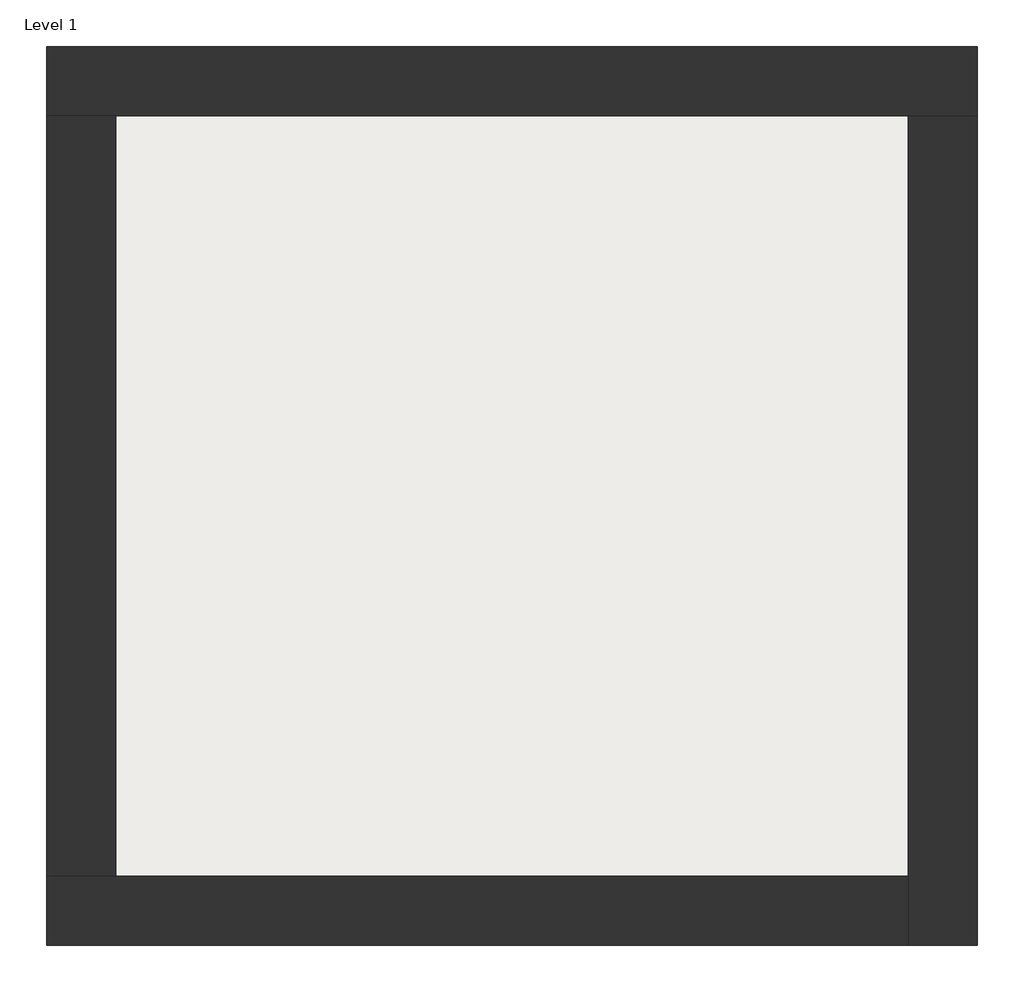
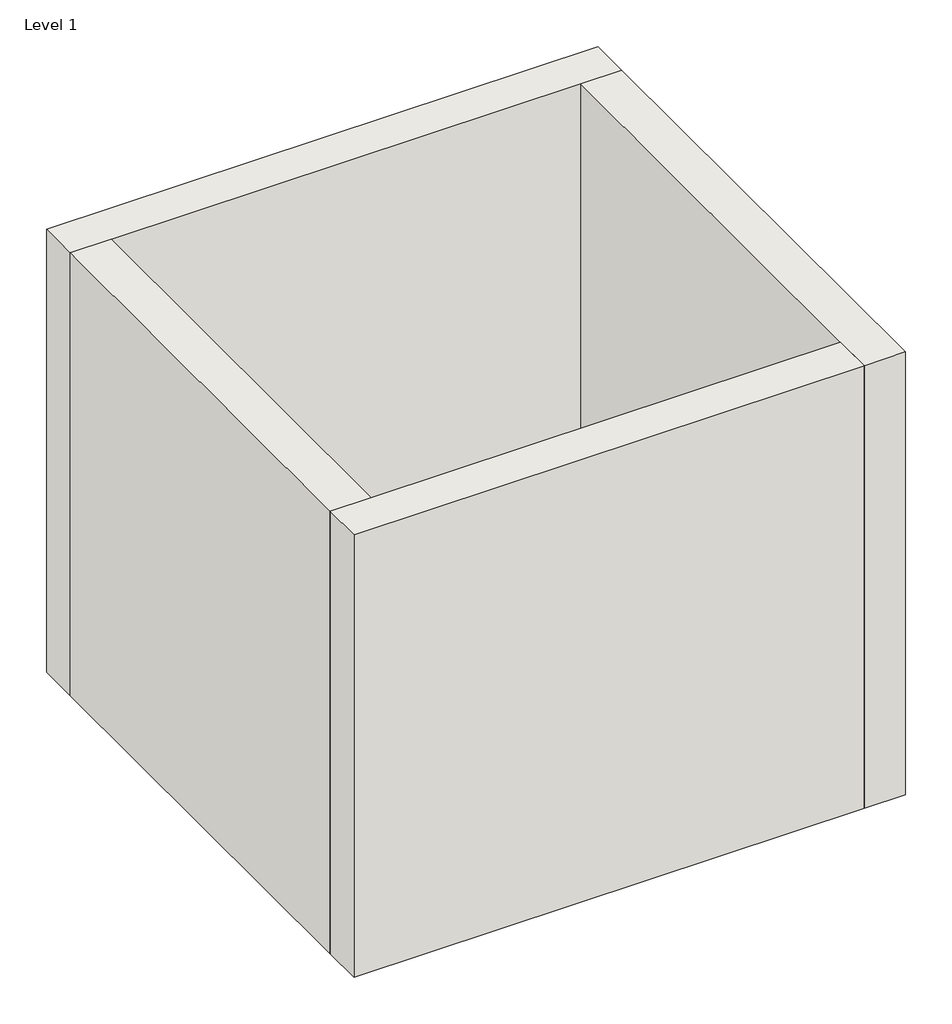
# One storey: 4 walls, 1 slab.
"""IFC4 building model written with IfcOpenShell, lengths in millimetres."""

from ifc_helpers import new_model, si_unit, frame, origin, origin_with_axes, place, context, project, spatial, polyline, outline, extrude, faceted_brep, element, save

model = new_model("IFC4")

# Units and contexts
model_context = context("Model", 3, world=origin())
ifc_project = project(units=[si_unit("LENGTHUNIT", "METRE", prefix="MILLI")], contexts=[model_context])

# Site, building, storey
site = spatial("IfcSite", under=ifc_project)
building = spatial("IfcBuilding", under=site)
storey = spatial("IfcBuildingStorey", under=building, Name="Level 1", Elevation=0.0)

# Slab
placement = place(None, origin())
element("IfcSlab", 1, ObjectType="CAP. 6 - SsB 01 - PARDOSEALA", at=placement, inside=storey, context=model_context, shape_type="SweptSolid", body=[
    extrude(outline(polyline([(-10869.3573003, 6934.2750283), (-10869.3573003, 3058.2750283), (-14907.8573003, 3058.2750283), (-14907.8573003, 6934.2750283), (-10869.3573003, 6934.2750283)])), frame((0.0, 0.0, -4.7), z_axis=(0.0, 0.0, 1.0), x_axis=(1.0, 0.0, 0.0)), (0.0, 0.0, 1.0), 404.7),
])

# Walls
element("IfcWall", 2, ObjectType="Exterior - Brick on Mtl. Stud", at=placement, inside=storey, context=model_context, shape_type="Brep", body=[
    faceted_brep([(-15244.8573003, 6921.2750283, 0.0), (-14894.8573003, 6921.2750283, 0.0), (-10882.3573003, 6921.2750283, 0.0), (-10532.3573003, 6921.2750283, 0.0), (-10532.3573003, 6921.2750283, 4000.0), (-10882.3573003, 6921.2750283, 4000.0), (-14894.8573003, 6921.2750283, 4000.0), (-15244.8573003, 6921.2750283, 4000.0), (-15244.8573003, 7271.2750283, 0.0), (-15244.8573003, 7271.2750283, 4000.0), (-10532.3573003, 7271.2750283, 4000.0), (-10532.3573003, 7271.2750283, 0.0)], [[[0, 1, 2, 3, 4, 5, 6, 7]], [[8, 9, 10, 11]], [[3, 2, 1, 0, 8, 11]], [[7, 6, 5, 4, 10, 9]], [[0, 7, 9, 8]], [[4, 3, 11, 10]]]),
])
element("IfcWall", 3, ObjectType="Exterior - Brick on Mtl. Stud", at=placement, inside=storey, context=model_context, shape_type="Brep", body=[
    faceted_brep([(-10882.3573003, 6921.2750283, 0.0), (-10882.3573003, 3071.2750283, 0.0), (-10882.3573003, 2721.2750283, 0.0), (-10882.3573003, 2721.2750283, 4000.0), (-10882.3573003, 3071.2750283, 4000.0), (-10882.3573003, 6921.2750283, 4000.0), (-10532.3573003, 6921.2750283, 0.0), (-10532.3573003, 6921.2750283, 4000.0), (-10532.3573003, 2721.2750283, 4000.0), (-10532.3573003, 2721.2750283, 0.0)], [[[0, 1, 2, 3, 4, 5]], [[6, 7, 8, 9]], [[2, 1, 0, 6, 9]], [[5, 4, 3, 8, 7]], [[3, 2, 9, 8]], [[0, 5, 7, 6]]]),
])
element("IfcWall", 4, ObjectType="Exterior - Brick on Mtl. Stud", at=placement, inside=storey, context=model_context, shape_type="Brep", body=[
    faceted_brep([(-10882.3573003, 3071.2750283, 0.0), (-14894.8573003, 3071.2750283, 0.0), (-15244.8573003, 3071.2750283, 0.0), (-15244.8573003, 3071.2750283, 4000.0), (-14894.8573003, 3071.2750283, 4000.0), (-10882.3573003, 3071.2750283, 4000.0), (-10882.3573003, 2721.2750283, 0.0), (-10882.3573003, 2721.2750283, 4000.0), (-15244.8573003, 2721.2750283, 4000.0), (-15244.8573003, 2721.2750283, 0.0)], [[[0, 1, 2, 3, 4, 5]], [[6, 7, 8, 9]], [[2, 1, 0, 6, 9]], [[5, 4, 3, 8, 7]], [[3, 2, 9, 8]], [[0, 5, 7, 6]]]),
])
element("IfcWall", 5, ObjectType="Exterior - Brick on Mtl. Stud", at=placement, inside=storey, context=model_context, shape_type="SweptSolid", body=[
    extrude(outline(polyline([(-14894.8573003, 6921.2750283), (-14894.8573003, 3071.2750283), (-15244.8573003, 3071.2750283), (-15244.8573003, 6921.2750283), (-14894.8573003, 6921.2750283)])), origin_with_axes(), (0.0, 0.0, 1.0), 4000.0),
])

save(model, "model.ifc")
